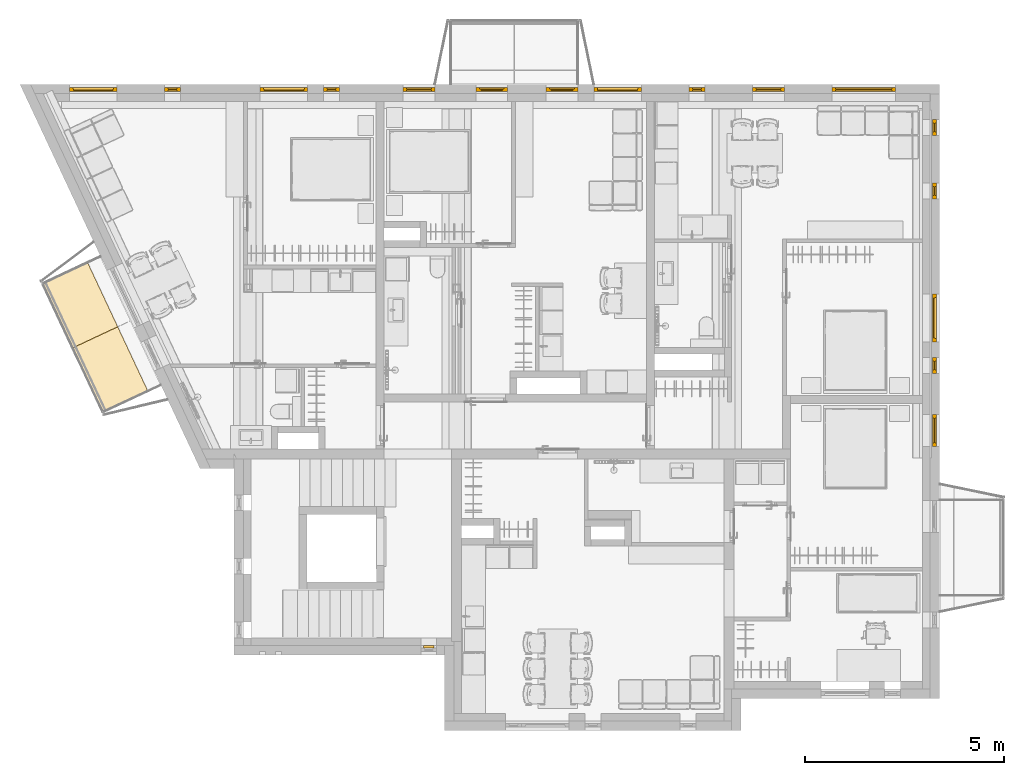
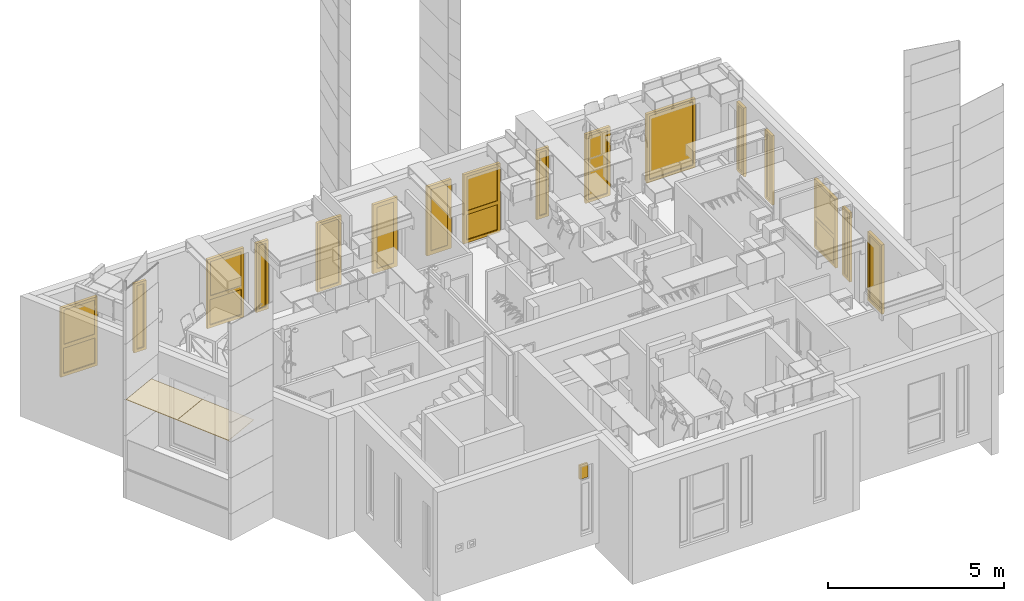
# One storey, part 45 of 125: 17 windows, 2 coverings.
"""IFC2X3 building model written with IfcOpenShell, lengths in millimetres."""

from ifc_helpers import new_model, entity, si_unit, converted_unit, direction, frame, origin, place, context, subcontext, project, spatial, polyline, outline, extrude, faceted_brep, source, transform, mapped, material, material_list, layer, layer_set, layer_usage, type_object, type_shapes, element, save


model = new_model("IFC2X3")

# Units and contexts
model_context = context("Model", 3, precision=0.01, world=origin(), true_north=direction((6.123233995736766e-17, 1.0)))
plan_context = context("Plan", 3, precision=0.01, world=origin(), true_north=direction((6.123233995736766e-17, 1.0)))
body_context = subcontext(model_context, "Body", "Model", "MODEL_VIEW")
ifc_project = project(units=[si_unit("LENGTHUNIT", "METRE", prefix="MILLI"), converted_unit("PLANEANGLEUNIT", "DEGREE", entity("IfcPlaneAngleMeasure", 0.017453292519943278), si_unit("PLANEANGLEUNIT", "RADIAN"), dimensions=[0, 0, 0, 0, 0, 0, 0]), si_unit("AREAUNIT", "SQUARE_METRE")], contexts=[model_context, plan_context])

# Site, building, storey
site_placement = place(None, origin())
site = spatial("IfcSite", under=ifc_project, at=site_placement, Name="Default", CompositionType="ELEMENT")
building_placement = place(site_placement, origin())
building = spatial("IfcBuilding", under=site, at=building_placement, CompositionType="ELEMENT")
storey_placement = place(building_placement, frame((0.0, 0.0, 3125.0)))
storey = spatial("IfcBuildingStorey", under=building, at=storey_placement, Name="2K", CompositionType="ELEMENT", Elevation=3125.0)

# Windows
ifc_material_1 = material(Name="_K. Klaas. Pakett")
ifc_material_2 = material(Name="_K. Avatäited. Raam. PVC. RAL9005")
ifc_material_3 = material(Name="_K. Avatäited. Raam. PVC. Valge")
ifc_material_list_1 = material_list([ifc_material_1, ifc_material_2, ifc_material_3])
window_style_1 = type_object("IfcWindowStyle", Name="HR_Window_Generic_Rectangle_1x2:A-13.1200x2400.P", ConstructionType="NOTDEFINED", OperationType="NOTDEFINED", ParameterTakesPrecedence=False, Sizeable=False, material=ifc_material_list_1)
shared_shape_1 = source(origin(), body_context, "Body", "Brep", [
    faceted_brep([(78.0, -154.0, 2322.0), (1122.0, -154.0, 2322.0), (1122.0, -154.0, 1101.0), (78.0, -154.0, 1101.0), (1122.0, -179.0, 2322.0), (1122.0, -179.0, 1101.0), (78.0, -179.0, 1101.0), (78.0, -179.0, 2322.0)], [[[0, 1, 2, 3]], [[2, 1, 4, 5]], [[3, 2, 5, 6]], [[0, 3, 6, 7]], [[7, 6, 5, 4]], [[1, 0, 7, 4]]]),
    faceted_brep([(1122.0, -154.0, 2322.0), (1122.0, -154.0, 1101.0), (1122.0, -179.0, 1101.0), (1122.0, -179.0, 2322.0), (1142.0, -134.0, 2342.0), (58.0, -134.0, 2342.0), (58.0, -194.0, 2342.0), (1142.0, -194.0, 2342.0), (98.0, -154.0, 2302.0), (98.0, -134.0, 2302.0), (1102.0, -134.0, 2302.0), (1102.0, -154.0, 2302.0), (98.0, -179.0, 2302.0), (98.0, -194.0, 2302.0), (98.0, -194.0, 1121.0), (98.0, -179.0, 1121.0), (1142.0, -134.0, 1081.0), (1142.0, -194.0, 1081.0), (58.0, -194.0, 1081.0), (58.0, -134.0, 1081.0), (1102.0, -194.0, 2302.0), (1102.0, -194.0, 1121.0), (98.0, -134.0, 1121.0), (1102.0, -134.0, 1121.0), (98.0, -154.0, 1121.0), (1102.0, -154.0, 1121.0), (78.0, -154.0, 1101.0), (78.0, -179.0, 1101.0), (78.0, -154.0, 2322.0), (78.0, -179.0, 2322.0), (1102.0, -179.0, 2302.0), (1102.0, -179.0, 1121.0)], [[[0, 1, 2, 3]], [[4, 5, 6, 7]], [[8, 9, 10, 11]], [[12, 13, 14, 15]], [[16, 17, 18, 19]], [[4, 7, 17, 16]], [[13, 20, 21, 14], [7, 6, 18, 17]], [[6, 5, 19, 18]], [[5, 4, 16, 19], [10, 9, 22, 23]], [[9, 8, 24, 22]], [[25, 23, 22, 24]], [[11, 10, 23, 25]], [[1, 26, 27, 2]], [[26, 28, 29, 27]], [[28, 26, 1, 0], [8, 11, 25, 24]], [[28, 0, 3, 29]], [[20, 30, 31, 21]], [[21, 31, 15, 14]], [[29, 3, 2, 27], [30, 12, 15, 31]], [[13, 12, 30, 20]]], outer=[[True], [True], [True], [True], [True], [True], [False, True], [True], [True, False], [True], [True], [True], [True], [True], [True, False], [True], [True], [True], [True, False], [True]]),
    faceted_brep([(88.0, -194.0, 989.0), (1112.0, -194.0, 989.0), (1112.0, -194.0, 108.0), (88.0, -194.0, 108.0), (1142.0, -194.0, 1019.0), (58.0, -194.0, 1019.0), (58.0, -194.0, 78.0), (1142.0, -194.0, 78.0), (88.0, -159.0, 989.0), (88.0, -159.0, 108.0), (1112.0, -159.0, 108.0), (1142.0, -159.0, 1019.0), (1142.0, -159.0, 78.0), (58.0, -159.0, 78.0), (58.0, -159.0, 1019.0), (1112.0, -159.0, 989.0)], [[[0, 1, 2, 3], [4, 5, 6, 7]], [[8, 0, 3, 9]], [[9, 3, 2, 10]], [[11, 12, 13, 14], [15, 8, 9, 10]], [[1, 15, 10, 2]], [[6, 5, 14, 13]], [[7, 6, 13, 12]], [[4, 7, 12, 11]], [[15, 1, 0, 8]], [[5, 4, 11, 14]]], outer=[[False, True], [True], [True], [True, False], [True], [True], [True], [True], [True], [True]]),
    faceted_brep([(1142.0, -159.0, 1019.0), (58.0, -159.0, 1019.0), (58.0, -159.0, 78.0), (1142.0, -159.0, 78.0), (58.0, -134.0, 1019.0), (58.0, -134.0, 78.0), (1142.0, -134.0, 78.0), (1142.0, -134.0, 1019.0)], [[[0, 1, 2, 3]], [[2, 1, 4, 5]], [[3, 2, 5, 6]], [[0, 3, 6, 7]], [[7, 6, 5, 4]], [[1, 0, 7, 4]]]),
    faceted_brep([(58.0, -134.0, 2342.0), (58.0, -134.0, 1081.0), (1142.0, -134.0, 1081.0), (1142.0, -134.0, 2342.0), (88.0, -134.0, 2312.0), (1112.0, -134.0, 2312.0), (1112.0, -134.0, 1111.0), (88.0, -134.0, 1111.0), (1142.0, -134.0, 1019.0), (1142.0, -134.0, 78.0), (1142.0, -194.0, 78.0), (1142.0, -194.0, 1019.0), (58.0, -134.0, 78.0), (58.0, -134.0, 1019.0), (58.0, -194.0, 1019.0), (58.0, -194.0, 78.0), (1112.0, -100.0, 108.0), (88.0, -100.0, 108.0), (88.0, -134.0, 108.0), (1112.0, -134.0, 108.0), (88.0, -100.0, 989.0), (88.0, -134.0, 989.0), (1112.0, -100.0, 989.0), (1112.0, -134.0, 989.0), (1200.0, -194.0, 2400.0), (0.0, -194.0, 2400.0), (0.0, -194.0, 30.0), (1200.0, -194.0, 30.0), (58.0, -194.0, 2342.0), (1142.0, -194.0, 2342.0), (1142.0, -194.0, 1081.0), (58.0, -194.0, 1081.0), (0.0, -100.0, 2400.0), (0.0, -100.0, 30.0), (0.0, -110.0, 30.0), (0.0, -110.0, 0.0), (0.0, -184.0, 0.0), (0.0, -184.0, 30.0), (1200.0, -184.0, 30.0), (1200.0, -100.0, 2400.0), (1200.0, -184.0, 0.0), (1200.0, -110.0, 0.0), (1200.0, -110.0, 30.0), (1200.0, -100.0, 30.0), (88.0, -100.0, 2312.0), (88.0, -100.0, 1111.0), (1112.0, -100.0, 1111.0), (1112.0, -100.0, 2312.0)], [[[0, 1, 2, 3], [4, 5, 6, 7]], [[8, 9, 10, 11]], [[12, 13, 14, 15]], [[9, 12, 15, 10]], [[16, 17, 18, 19]], [[17, 20, 21, 18]], [[22, 16, 19, 23]], [[11, 10, 15, 14], [24, 25, 26, 27], [28, 29, 30, 31]], [[25, 32, 33, 34, 35, 36, 37, 26]], [[37, 38, 27, 26]], [[39, 24, 27, 38, 40, 41, 42, 43]], [[17, 16, 22, 20], [32, 39, 43, 33], [44, 45, 46, 47]], [[42, 34, 33, 43]], [[34, 42, 41, 35]], [[35, 41, 40, 36]], [[38, 37, 36, 40]], [[25, 24, 39, 32]], [[44, 47, 5, 4]], [[47, 46, 6, 5]], [[45, 44, 4, 7]], [[0, 3, 29, 28]], [[3, 2, 30, 29]], [[13, 8, 11, 14]], [[1, 0, 28, 31]], [[2, 1, 31, 30]], [[46, 45, 7, 6]], [[20, 22, 23, 21]], [[9, 8, 13, 12], [19, 18, 21, 23]]], outer=[[True, False], [True], [True], [True], [True], [True], [True], [False, True, False], [True], [True], [True], [False, True, False], [True], [True], [True], [True], [True], [True], [True], [True], [True], [True], [True], [True], [True], [True], [True], [True, False]]),
])
type_shapes(window_style_1, [shared_shape_1])
for number, where in (
    (1, (-4575.0, 15850.0, 0.0)),
    (2, (225.0, 15850.0, 0.0)),
    (3, (8625.0, 15850.0, 0.0)),
):
    element("IfcWindow", number, at=place(storey_placement, frame(where)), inside=storey, type_object=window_style_1, material=ifc_material_list_1, Name="HR_Window_Generic_Rectangle_1x2:A-13.1200x2400.P", ObjectType="HR_Window_Generic_Rectangle_1x2:A-13.1200x2400.P", OverallHeight=2465.0000000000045, OverallWidth=1200.0000000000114, context=body_context, shape_type="MappedRepresentation", body=[
        mapped(shared_shape_1, transform((0.0, 0.0, 0.0), scale=1.0)),
    ])
window_1_placement = place(storey_placement, frame((17350.0, 10550.0, 0.0), z_axis=(0.0, 0.0, 1.0), x_axis=(0.0, -1.0, 0.0)))
element("IfcWindow", 4, at=window_1_placement, inside=storey, type_object=window_style_1, material=ifc_material_list_1, Name="HR_Window_Generic_Rectangle_1x2:A-13.1200x2400.P", ObjectType="HR_Window_Generic_Rectangle_1x2:A-13.1200x2400.P", OverallHeight=2465.0000000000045, OverallWidth=1200.0000000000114, context=body_context, shape_type="MappedRepresentation", body=[
    mapped(shared_shape_1, transform((0.0, 0.0, 0.0), scale=1.0)),
])
ifc_material_list_2 = material_list([ifc_material_3, ifc_material_1, ifc_material_2])
window_style_2 = type_object("IfcWindowStyle", Name="HR_Window_Generic_Rectangle_1x1:A-01.400x2400.ma", ConstructionType="NOTDEFINED", OperationType="NOTDEFINED", ParameterTakesPrecedence=False, Sizeable=False, material=ifc_material_list_2)
shared_shape_2 = source(origin(), body_context, "Body", "Brep", [
    faceted_brep([(88.0, -194.0, 2312.0), (312.0, -194.0, 2312.0), (312.0, -194.0, 108.0), (88.0, -194.0, 108.0), (342.0, -194.0, 2342.0), (58.0, -194.0, 2342.0), (58.0, -194.0, 78.0), (342.0, -194.0, 78.0), (88.0, -159.0, 2312.0), (88.0, -159.0, 108.0), (312.0, -159.0, 108.0), (342.0, -159.0, 2342.0), (342.0, -159.0, 78.0), (58.0, -159.0, 78.0), (58.0, -159.0, 2342.0), (312.0, -159.0, 2312.0)], [[[0, 1, 2, 3], [4, 5, 6, 7]], [[8, 0, 3, 9]], [[9, 3, 2, 10]], [[11, 12, 13, 14], [15, 8, 9, 10]], [[1, 15, 10, 2]], [[6, 5, 14, 13]], [[7, 6, 13, 12]], [[4, 7, 12, 11]], [[15, 1, 0, 8]], [[5, 4, 11, 14]]], outer=[[False, True], [True], [True], [True, False], [True], [True], [True], [True], [True], [True]]),
    faceted_brep([(342.0, -159.0, 2342.0), (58.0, -159.0, 2342.0), (58.0, -159.0, 78.0), (342.0, -159.0, 78.0), (58.0, -134.0, 2342.0), (58.0, -134.0, 78.0), (342.0, -134.0, 78.0), (342.0, -134.0, 2342.0)], [[[0, 1, 2, 3]], [[2, 1, 4, 5]], [[3, 2, 5, 6]], [[0, 3, 6, 7]], [[7, 6, 5, 4]], [[1, 0, 7, 4]]]),
    faceted_brep([(342.0, -134.0, 78.0), (58.0, -134.0, 78.0), (58.0, -194.0, 78.0), (342.0, -194.0, 78.0), (58.0, -134.0, 2342.0), (58.0, -194.0, 2342.0), (342.0, -134.0, 2342.0), (342.0, -194.0, 2342.0), (88.0, -100.0, 108.0), (88.0, -100.0, 2312.0), (88.0, -134.0, 2312.0), (88.0, -134.0, 108.0), (312.0, -100.0, 108.0), (312.0, -134.0, 108.0), (312.0, -100.0, 2312.0), (312.0, -134.0, 2312.0), (0.0, -100.0, 2400.0), (400.0, -100.0, 2400.0), (400.0, -100.0, 30.0), (0.0, -100.0, 30.0), (400.0, -194.0, 2400.0), (0.0, -194.0, 2400.0), (0.0, -194.0, 30.0), (400.0, -194.0, 30.0), (0.0, -110.0, 30.0), (0.0, -110.0, 0.0), (0.0, -184.0, 0.0), (0.0, -184.0, 30.0), (400.0, -184.0, 30.0), (400.0, -184.0, 0.0), (400.0, -110.0, 0.0), (400.0, -110.0, 30.0)], [[[0, 1, 2, 3]], [[1, 4, 5, 2]], [[6, 0, 3, 7]], [[8, 9, 10, 11]], [[12, 8, 11, 13]], [[14, 12, 13, 15]], [[16, 17, 18, 19], [9, 8, 12, 14]], [[20, 21, 22, 23], [7, 3, 2, 5]], [[21, 16, 19, 24, 25, 26, 27, 22]], [[27, 28, 23, 22]], [[17, 20, 23, 28, 29, 30, 31, 18]], [[31, 24, 19, 18]], [[24, 31, 30, 25]], [[25, 30, 29, 26]], [[28, 27, 26, 29]], [[4, 6, 7, 5]], [[9, 14, 15, 10]], [[21, 20, 17, 16]], [[10, 15, 13, 11], [0, 6, 4, 1]]], outer=[[True], [True], [True], [True], [True], [True], [True, False], [True, False], [True], [True], [True], [True], [True], [True], [True], [True], [True], [True], [False, True]]),
])
type_shapes(window_style_2, [shared_shape_2])
for number, where in (
    (5, (-2175.0, 15850.0, 0.0)),
    (6, (1825.0, 15850.0, 0.0)),
    (7, (11025.0, 15850.0, 0.0)),
):
    element("IfcWindow", number, at=place(storey_placement, frame(where)), inside=storey, type_object=window_style_2, material=ifc_material_list_2, Name="HR_Window_Generic_Rectangle_1x1:A-01.400x2400.ma", ObjectType="HR_Window_Generic_Rectangle_1x1:A-01.400x2400.ma", OverallHeight=2465.0000000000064, OverallWidth=400.0000000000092, context=body_context, shape_type="MappedRepresentation", body=[
        mapped(shared_shape_2, transform((0.0, 0.0, 0.0), scale=1.0)),
    ])
for number, where, z_axis, x_axis in (
    (8, (17350.0, 14950.0, 0.0), (0.0, 0.0, 1.0), (0.0, -1.0, 0.0)),
    (9, (17350.0, 13350.0, 0.0), (0.0, 0.0, 1.0), (0.0, -1.0, 0.0)),
    (10, (17350.0, 8950.0, 0.0), (0.0, 0.0, 1.0), (0.0, -1.0, 0.0)),
):
    element("IfcWindow", number, at=place(storey_placement, frame(where, z_axis=z_axis, x_axis=x_axis)), inside=storey, type_object=window_style_2, material=ifc_material_list_2, Name="HR_Window_Generic_Rectangle_1x1:A-01.400x2400.ma", ObjectType="HR_Window_Generic_Rectangle_1x1:A-01.400x2400.ma", OverallHeight=2465.0000000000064, OverallWidth=400.0000000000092, context=body_context, shape_type="MappedRepresentation", body=[
        mapped(shared_shape_2, transform((0.0, 0.0, 0.0), scale=1.0)),
    ])
window_style_3 = type_object("IfcWindowStyle", Name="HR_Window_Generic_Rectangle_1x1:A-02. 800x2400. ma", ConstructionType="NOTDEFINED", OperationType="NOTDEFINED", ParameterTakesPrecedence=False, Sizeable=False, material=ifc_material_list_2)
shared_shape_3 = source(origin(), body_context, "Body", "Brep", [
    faceted_brep([(88.0, -194.0, 2312.0), (712.0, -194.0, 2312.0), (712.0, -194.0, 108.0), (88.0, -194.0, 108.0), (742.0, -194.0, 2342.0), (58.0, -194.0, 2342.0), (58.0, -194.0, 78.0), (742.0, -194.0, 78.0), (88.0, -159.0, 2312.0), (88.0, -159.0, 108.0), (712.0, -159.0, 108.0), (742.0, -159.0, 2342.0), (742.0, -159.0, 78.0), (58.0, -159.0, 78.0), (58.0, -159.0, 2342.0), (712.0, -159.0, 2312.0)], [[[0, 1, 2, 3], [4, 5, 6, 7]], [[8, 0, 3, 9]], [[9, 3, 2, 10]], [[11, 12, 13, 14], [15, 8, 9, 10]], [[1, 15, 10, 2]], [[6, 5, 14, 13]], [[7, 6, 13, 12]], [[4, 7, 12, 11]], [[15, 1, 0, 8]], [[5, 4, 11, 14]]], outer=[[False, True], [True], [True], [True, False], [True], [True], [True], [True], [True], [True]]),
    faceted_brep([(742.0, -159.0, 2342.0), (58.0, -159.0, 2342.0), (58.0, -159.0, 78.0), (742.0, -159.0, 78.0), (58.0, -134.0, 2342.0), (58.0, -134.0, 78.0), (742.0, -134.0, 78.0), (742.0, -134.0, 2342.0)], [[[0, 1, 2, 3]], [[2, 1, 4, 5]], [[3, 2, 5, 6]], [[0, 3, 6, 7]], [[7, 6, 5, 4]], [[1, 0, 7, 4]]]),
    faceted_brep([(742.0, -134.0, 78.0), (58.0, -134.0, 78.0), (58.0, -194.0, 78.0), (742.0, -194.0, 78.0), (58.0, -134.0, 2342.0), (58.0, -194.0, 2342.0), (742.0, -134.0, 2342.0), (742.0, -194.0, 2342.0), (88.0, -100.0, 108.0), (88.0, -100.0, 2312.0), (88.0, -134.0, 2312.0), (88.0, -134.0, 108.0), (712.0, -100.0, 108.0), (712.0, -134.0, 108.0), (712.0, -100.0, 2312.0), (712.0, -134.0, 2312.0), (0.0, -100.0, 2400.0), (800.0, -100.0, 2400.0), (800.0, -100.0, 30.0), (0.0, -100.0, 30.0), (800.0, -194.0, 2400.0), (0.0, -194.0, 2400.0), (0.0, -194.0, 30.0), (800.0, -194.0, 30.0), (0.0, -110.0, 30.0), (0.0, -110.0, 0.0), (0.0, -184.0, 0.0), (0.0, -184.0, 30.0), (800.0, -184.0, 30.0), (800.0, -184.0, 0.0), (800.0, -110.0, 0.0), (800.0, -110.0, 30.0)], [[[0, 1, 2, 3]], [[1, 4, 5, 2]], [[6, 0, 3, 7]], [[8, 9, 10, 11]], [[12, 8, 11, 13]], [[14, 12, 13, 15]], [[16, 17, 18, 19], [9, 8, 12, 14]], [[20, 21, 22, 23], [7, 3, 2, 5]], [[21, 16, 19, 24, 25, 26, 27, 22]], [[27, 28, 23, 22]], [[17, 20, 23, 28, 29, 30, 31, 18]], [[31, 24, 19, 18]], [[24, 31, 30, 25]], [[25, 30, 29, 26]], [[28, 27, 26, 29]], [[4, 6, 7, 5]], [[9, 14, 15, 10]], [[21, 20, 17, 16]], [[10, 15, 13, 11], [0, 6, 4, 1]]], outer=[[True], [True], [True], [True], [True], [True], [True, False], [True, False], [True], [True], [True], [True], [True], [True], [True], [True], [True], [True], [False, True]]),
])
type_shapes(window_style_3, [shared_shape_3])
for number, where in (
    (11, (3825.0, 15850.0, 0.0)),
    (12, (12625.0, 15850.0, 0.0)),
):
    element("IfcWindow", number, at=place(storey_placement, frame(where)), inside=storey, type_object=window_style_3, material=ifc_material_list_2, Name="HR_Window_Generic_Rectangle_1x1:A-02. 800x2400. ma", ObjectType="HR_Window_Generic_Rectangle_1x1:A-02. 800x2400. ma", OverallHeight=2465.0000000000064, OverallWidth=800.000000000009, context=body_context, shape_type="MappedRepresentation", body=[
        mapped(shared_shape_3, transform((0.0, 0.0, 0.0), scale=1.0)),
    ])
window_2_placement = place(storey_placement, frame((17350.0, 7520.0, 0.0), z_axis=(0.0, 0.0, 1.0), x_axis=(0.0, -1.0, 0.0)))
element("IfcWindow", 13, at=window_2_placement, inside=storey, type_object=window_style_3, material=ifc_material_list_2, Name="HR_Window_Generic_Rectangle_1x1:A-02. 800x2400. ma", ObjectType="HR_Window_Generic_Rectangle_1x1:A-02. 800x2400. ma", OverallHeight=2465.0000000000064, OverallWidth=800.000000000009, context=body_context, shape_type="MappedRepresentation", body=[
    mapped(shared_shape_3, transform((0.0, 0.0, 0.0), scale=1.0)),
])
ifc_material_list_3 = material_list([ifc_material_1, ifc_material_2])
window_style_4 = type_object("IfcWindowStyle", Name="HR_Window_Generic_Rectangle_1x1:A-10.800x2400.P", ConstructionType="NOTDEFINED", OperationType="NOTDEFINED", ParameterTakesPrecedence=False, Sizeable=False, material=ifc_material_list_3)
shared_shape_4 = source(origin(), body_context, "Body", "Brep", [
    faceted_brep([(108.0, -154.0, 2292.0), (692.0, -154.0, 2292.0), (692.0, -154.0, 128.0), (108.0, -154.0, 128.0), (692.0, -179.0, 2292.0), (692.0, -179.0, 128.0), (108.0, -179.0, 128.0), (108.0, -179.0, 2292.0)], [[[0, 1, 2, 3]], [[2, 1, 4, 5]], [[3, 2, 5, 6]], [[0, 3, 6, 7]], [[7, 6, 5, 4]], [[1, 0, 7, 4]]]),
    faceted_brep([(692.0, -154.0, 2292.0), (692.0, -154.0, 128.0), (692.0, -179.0, 128.0), (692.0, -179.0, 2292.0), (742.0, -134.0, 2342.0), (58.0, -134.0, 2342.0), (58.0, -194.0, 2342.0), (742.0, -194.0, 2342.0), (128.0, -154.0, 2272.0), (128.0, -134.0, 2272.0), (672.0, -134.0, 2272.0), (672.0, -154.0, 2272.0), (128.0, -179.0, 2272.0), (128.0, -194.0, 2272.0), (128.0, -194.0, 148.0), (128.0, -179.0, 148.0), (742.0, -134.0, 78.0), (742.0, -194.0, 78.0), (58.0, -194.0, 78.0), (58.0, -134.0, 78.0), (672.0, -194.0, 2272.0), (672.0, -194.0, 148.0), (128.0, -134.0, 148.0), (672.0, -134.0, 148.0), (128.0, -154.0, 148.0), (672.0, -154.0, 148.0), (108.0, -154.0, 128.0), (108.0, -179.0, 128.0), (108.0, -154.0, 2292.0), (108.0, -179.0, 2292.0), (672.0, -179.0, 2272.0), (672.0, -179.0, 148.0)], [[[0, 1, 2, 3]], [[4, 5, 6, 7]], [[8, 9, 10, 11]], [[12, 13, 14, 15]], [[16, 17, 18, 19]], [[4, 7, 17, 16]], [[13, 20, 21, 14], [7, 6, 18, 17]], [[6, 5, 19, 18]], [[5, 4, 16, 19], [10, 9, 22, 23]], [[9, 8, 24, 22]], [[25, 23, 22, 24]], [[11, 10, 23, 25]], [[1, 26, 27, 2]], [[26, 28, 29, 27]], [[28, 26, 1, 0], [8, 11, 25, 24]], [[28, 0, 3, 29]], [[20, 30, 31, 21]], [[21, 31, 15, 14]], [[29, 3, 2, 27], [30, 12, 15, 31]], [[13, 12, 30, 20]]], outer=[[True], [True], [True], [True], [True], [True], [False, True], [True], [True, False], [True], [True], [True], [True], [True], [True, False], [True], [True], [True], [True, False], [True]]),
    faceted_brep([(742.0, -134.0, 78.0), (58.0, -134.0, 78.0), (58.0, -194.0, 78.0), (742.0, -194.0, 78.0), (58.0, -134.0, 2342.0), (58.0, -194.0, 2342.0), (742.0, -134.0, 2342.0), (742.0, -194.0, 2342.0), (88.0, -100.0, 108.0), (88.0, -100.0, 2312.0), (88.0, -134.0, 2312.0), (88.0, -134.0, 108.0), (712.0, -100.0, 108.0), (712.0, -134.0, 108.0), (712.0, -100.0, 2312.0), (712.0, -134.0, 2312.0), (0.0, -100.0, 2400.0), (800.0, -100.0, 2400.0), (800.0, -100.0, 30.0), (0.0, -100.0, 30.0), (800.0, -194.0, 2400.0), (0.0, -194.0, 2400.0), (0.0, -194.0, 30.0), (800.0, -194.0, 30.0), (0.0, -110.0, 30.0), (0.0, -110.0, 0.0), (0.0, -184.0, 0.0), (0.0, -184.0, 30.0), (800.0, -184.0, 30.0), (800.0, -184.0, 0.0), (800.0, -110.0, 0.0), (800.0, -110.0, 30.0)], [[[0, 1, 2, 3]], [[1, 4, 5, 2]], [[6, 0, 3, 7]], [[8, 9, 10, 11]], [[12, 8, 11, 13]], [[14, 12, 13, 15]], [[16, 17, 18, 19], [9, 8, 12, 14]], [[20, 21, 22, 23], [7, 3, 2, 5]], [[21, 16, 19, 24, 25, 26, 27, 22]], [[27, 28, 23, 22]], [[17, 20, 23, 28, 29, 30, 31, 18]], [[31, 24, 19, 18]], [[24, 31, 30, 25]], [[25, 30, 29, 26]], [[28, 27, 26, 29]], [[4, 6, 7, 5]], [[9, 14, 15, 10]], [[21, 20, 17, 16]], [[10, 15, 13, 11], [0, 6, 4, 1]]], outer=[[True], [True], [True], [True], [True], [True], [True, False], [True, False], [True], [True], [True], [True], [True], [True], [True], [True], [True], [True], [False, True]]),
])
type_shapes(window_style_4, [shared_shape_4])
window_3_placement = place(storey_placement, frame((5655.0, 15850.0, 0.0)))
element("IfcWindow", 14, at=window_3_placement, inside=storey, type_object=window_style_4, material=ifc_material_list_3, Name="HR_Window_Generic_Rectangle_1x1:A-10.800x2400.P", ObjectType="HR_Window_Generic_Rectangle_1x1:A-10.800x2400.P", OverallHeight=2465.0000000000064, OverallWidth=800.000000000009, context=body_context, shape_type="MappedRepresentation", body=[
    mapped(shared_shape_4, transform((0.0, 0.0, 0.0), scale=1.0)),
])
window_style_5 = type_object("IfcWindowStyle", Name="HR_Window_Generic_Rectangle_1x1:A-09.800x2400.V", ConstructionType="NOTDEFINED", OperationType="NOTDEFINED", ParameterTakesPrecedence=False, Sizeable=False, material=ifc_material_list_3)
shared_shape_5 = source(origin(), body_context, "Body", "Brep", [
    faceted_brep([(108.0, -154.0, 2292.0), (692.0, -154.0, 2292.0), (692.0, -154.0, 128.0), (108.0, -154.0, 128.0), (692.0, -179.0, 2292.0), (692.0, -179.0, 128.0), (108.0, -179.0, 128.0), (108.0, -179.0, 2292.0)], [[[0, 1, 2, 3]], [[2, 1, 4, 5]], [[3, 2, 5, 6]], [[0, 3, 6, 7]], [[7, 6, 5, 4]], [[1, 0, 7, 4]]]),
    faceted_brep([(742.0, -134.0, 78.0), (742.0, -194.0, 78.0), (58.0, -194.0, 78.0), (58.0, -134.0, 78.0), (742.0, -134.0, 2342.0), (742.0, -194.0, 2342.0), (128.0, -194.0, 2272.0), (672.0, -194.0, 2272.0), (672.0, -194.0, 148.0), (128.0, -194.0, 148.0), (58.0, -194.0, 2342.0), (58.0, -134.0, 2342.0), (672.0, -134.0, 2272.0), (128.0, -134.0, 2272.0), (128.0, -134.0, 148.0), (672.0, -134.0, 148.0), (128.0, -154.0, 2272.0), (128.0, -154.0, 148.0), (672.0, -154.0, 148.0), (672.0, -154.0, 2272.0), (692.0, -154.0, 2292.0), (692.0, -154.0, 128.0), (692.0, -179.0, 128.0), (692.0, -179.0, 2292.0), (108.0, -154.0, 128.0), (108.0, -179.0, 128.0), (108.0, -154.0, 2292.0), (108.0, -179.0, 2292.0), (672.0, -179.0, 2272.0), (672.0, -179.0, 148.0), (128.0, -179.0, 148.0), (128.0, -179.0, 2272.0)], [[[0, 1, 2, 3]], [[4, 5, 1, 0]], [[6, 7, 8, 9], [5, 10, 2, 1]], [[10, 11, 3, 2]], [[12, 13, 14, 15], [11, 4, 0, 3]], [[13, 16, 17, 14]], [[18, 15, 14, 17]], [[19, 12, 15, 18]], [[20, 21, 22, 23]], [[21, 24, 25, 22]], [[24, 26, 27, 25]], [[26, 24, 21, 20], [16, 19, 18, 17]], [[4, 11, 10, 5]], [[16, 13, 12, 19]], [[26, 20, 23, 27]], [[7, 28, 29, 8]], [[8, 29, 30, 9]], [[31, 6, 9, 30]], [[27, 23, 22, 25], [28, 31, 30, 29]], [[6, 31, 28, 7]]], outer=[[True], [True], [False, True], [True], [False, True], [True], [True], [True], [True], [True], [True], [True, False], [True], [True], [True], [True], [True], [True], [True, False], [True]]),
    faceted_brep([(742.0, -134.0, 78.0), (58.0, -134.0, 78.0), (58.0, -194.0, 78.0), (742.0, -194.0, 78.0), (58.0, -134.0, 2342.0), (58.0, -194.0, 2342.0), (742.0, -134.0, 2342.0), (742.0, -194.0, 2342.0), (88.0, -100.0, 108.0), (88.0, -100.0, 2312.0), (88.0, -134.0, 2312.0), (88.0, -134.0, 108.0), (712.0, -100.0, 108.0), (712.0, -134.0, 108.0), (712.0, -100.0, 2312.0), (712.0, -134.0, 2312.0), (0.0, -100.0, 2400.0), (800.0, -100.0, 2400.0), (800.0, -100.0, 30.0), (0.0, -100.0, 30.0), (800.0, -194.0, 2400.0), (0.0, -194.0, 2400.0), (0.0, -194.0, 30.0), (800.0, -194.0, 30.0), (0.0, -110.0, 30.0), (0.0, -110.0, 0.0), (0.0, -184.0, 0.0), (0.0, -184.0, 30.0), (800.0, -184.0, 30.0), (800.0, -184.0, 0.0), (800.0, -110.0, 0.0), (800.0, -110.0, 30.0)], [[[0, 1, 2, 3]], [[1, 4, 5, 2]], [[6, 0, 3, 7]], [[8, 9, 10, 11]], [[12, 8, 11, 13]], [[14, 12, 13, 15]], [[16, 17, 18, 19], [9, 8, 12, 14]], [[20, 21, 22, 23], [7, 3, 2, 5]], [[21, 16, 19, 24, 25, 26, 27, 22]], [[27, 28, 23, 22]], [[17, 20, 23, 28, 29, 30, 31, 18]], [[31, 24, 19, 18]], [[24, 31, 30, 25]], [[25, 30, 29, 26]], [[28, 27, 26, 29]], [[4, 6, 7, 5]], [[9, 14, 15, 10]], [[21, 20, 17, 16]], [[10, 15, 13, 11], [0, 6, 4, 1]]], outer=[[True], [True], [True], [True], [True], [True], [True, False], [True, False], [True], [True], [True], [True], [True], [True], [True], [True], [True], [True], [False, True]]),
])
type_shapes(window_style_5, [shared_shape_5])
window_4_placement = place(storey_placement, frame((7425.0, 15850.0, 0.0)))
element("IfcWindow", 15, at=window_4_placement, inside=storey, type_object=window_style_5, material=ifc_material_list_3, Name="HR_Window_Generic_Rectangle_1x1:A-09.800x2400.V", ObjectType="HR_Window_Generic_Rectangle_1x1:A-09.800x2400.V", OverallHeight=2465.0000000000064, OverallWidth=800.000000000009, context=body_context, shape_type="MappedRepresentation", body=[
    mapped(shared_shape_5, transform((0.0, 0.0, 0.0), scale=1.0)),
])
window_style_6 = type_object("IfcWindowStyle", Name="HR_Window_Generic_Rectangle_1x1:A-04.1600x2400.ma", ConstructionType="NOTDEFINED", OperationType="NOTDEFINED", ParameterTakesPrecedence=False, Sizeable=False, material=ifc_material_list_2)
shared_shape_6 = source(origin(), body_context, "Body", "Brep", [
    faceted_brep([(88.0, -194.0, 2312.0), (1512.0, -194.0, 2312.0), (1512.0, -194.0, 108.0), (88.0, -194.0, 108.0), (1542.0, -194.0, 2342.0), (58.0, -194.0, 2342.0), (58.0, -194.0, 78.0), (1542.0, -194.0, 78.0), (88.0, -159.0, 2312.0), (88.0, -159.0, 108.0), (1512.0, -159.0, 108.0), (1542.0, -159.0, 2342.0), (1542.0, -159.0, 78.0), (58.0, -159.0, 78.0), (58.0, -159.0, 2342.0), (1512.0, -159.0, 2312.0)], [[[0, 1, 2, 3], [4, 5, 6, 7]], [[8, 0, 3, 9]], [[9, 3, 2, 10]], [[11, 12, 13, 14], [15, 8, 9, 10]], [[1, 15, 10, 2]], [[6, 5, 14, 13]], [[7, 6, 13, 12]], [[4, 7, 12, 11]], [[15, 1, 0, 8]], [[5, 4, 11, 14]]], outer=[[False, True], [True], [True], [True, False], [True], [True], [True], [True], [True], [True]]),
    faceted_brep([(1542.0, -159.0, 2342.0), (58.0, -159.0, 2342.0), (58.0, -159.0, 78.0), (1542.0, -159.0, 78.0), (58.0, -134.0, 2342.0), (58.0, -134.0, 78.0), (1542.0, -134.0, 78.0), (1542.0, -134.0, 2342.0)], [[[0, 1, 2, 3]], [[2, 1, 4, 5]], [[3, 2, 5, 6]], [[0, 3, 6, 7]], [[7, 6, 5, 4]], [[1, 0, 7, 4]]]),
    faceted_brep([(1542.0, -134.0, 78.0), (58.0, -134.0, 78.0), (58.0, -194.0, 78.0), (1542.0, -194.0, 78.0), (58.0, -134.0, 2342.0), (58.0, -194.0, 2342.0), (1542.0, -134.0, 2342.0), (1542.0, -194.0, 2342.0), (88.0, -100.0, 108.0), (88.0, -100.0, 2312.0), (88.0, -134.0, 2312.0), (88.0, -134.0, 108.0), (1512.0, -100.0, 108.0), (1512.0, -134.0, 108.0), (1512.0, -100.0, 2312.0), (1512.0, -134.0, 2312.0), (0.0, -100.0, 2400.0), (1600.0, -100.0, 2400.0), (1600.0, -100.0, 30.0), (0.0, -100.0, 30.0), (1600.0, -194.0, 2400.0), (0.0, -194.0, 2400.0), (0.0, -194.0, 30.0), (1600.0, -194.0, 30.0), (0.0, -110.0, 30.0), (0.0, -110.0, 0.0), (0.0, -184.0, 0.0), (0.0, -184.0, 30.0), (1600.0, -184.0, 30.0), (1600.0, -184.0, 0.0), (1600.0, -110.0, 0.0), (1600.0, -110.0, 30.0)], [[[0, 1, 2, 3]], [[1, 4, 5, 2]], [[6, 0, 3, 7]], [[8, 9, 10, 11]], [[12, 8, 11, 13]], [[14, 12, 13, 15]], [[16, 17, 18, 19], [9, 8, 12, 14]], [[20, 21, 22, 23], [7, 3, 2, 5]], [[21, 16, 19, 24, 25, 26, 27, 22]], [[27, 28, 23, 22]], [[17, 20, 23, 28, 29, 30, 31, 18]], [[31, 24, 19, 18]], [[24, 31, 30, 25]], [[25, 30, 29, 26]], [[28, 27, 26, 29]], [[4, 6, 7, 5]], [[9, 14, 15, 10]], [[21, 20, 17, 16]], [[10, 15, 13, 11], [0, 6, 4, 1]]], outer=[[True], [True], [True], [True], [True], [True], [True, False], [True, False], [True], [True], [True], [True], [True], [True], [True], [True], [True], [True], [False, True]]),
])
type_shapes(window_style_6, [shared_shape_6])
window_5_placement = place(storey_placement, frame((14625.0, 15850.0, 0.0)))
element("IfcWindow", 16, at=window_5_placement, inside=storey, type_object=window_style_6, material=ifc_material_list_2, Name="HR_Window_Generic_Rectangle_1x1:A-04.1600x2400.ma", ObjectType="HR_Window_Generic_Rectangle_1x1:A-04.1600x2400.ma", OverallHeight=2465.0000000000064, OverallWidth=1600.0000000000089, context=body_context, shape_type="MappedRepresentation", body=[
    mapped(shared_shape_6, transform((0.0, 0.0, 0.0), scale=1.0)),
])
window_style_7 = type_object("IfcWindowStyle", Name="Infill_Glazing_W-ALU_Rectangle_Triple:Fixed. Tumm", ConstructionType="NOTDEFINED", OperationType="NOTDEFINED", ParameterTakesPrecedence=False, Sizeable=False, material=ifc_material_2)
shared_shape_7 = source(origin(), body_context, "Body", "Brep", [
    faceted_brep([(-130.50000000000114, -90.0, 469.49999999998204), (-130.50000000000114, -90.0, -18.499999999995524), (130.4999999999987, -90.0, -18.499999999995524), (130.4999999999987, -90.0, 469.49999999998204), (-130.50000000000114, -50.0, 469.49999999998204), (130.4999999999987, -50.0, 469.49999999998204), (130.4999999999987, -50.0, -18.499999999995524), (-130.50000000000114, -50.0, -18.499999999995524)], [[[0, 1, 2, 3]], [[4, 5, 6, 7]], [[1, 0, 4, 7]], [[2, 1, 7, 6]], [[3, 2, 6, 5]], [[0, 3, 5, 4]]]),
    faceted_brep([(130.5000000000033, -90.0, -18.499999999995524), (130.5000000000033, -112.0, -18.499999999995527), (-130.49999999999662, -112.0, -18.499999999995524), (-130.49999999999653, -90.0, -18.49999999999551), (-130.49999999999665, -112.0, 469.49999999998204), (-130.4999999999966, -90.0, 469.4999999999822), (130.50000000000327, -112.0, 469.49999999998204), (-117.89488223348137, -112.0, 456.89488223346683), (117.894882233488, -112.0, 456.89488223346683), (117.89488223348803, -112.0, -5.894882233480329), (-117.89488223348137, -112.0, -5.894882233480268), (-112.0, -90.0, 0.0), (112.0, -90.0, 0.0), (112.0, -90.0, 451.0), (-112.0, -90.0, 451.0), (130.5000000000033, -90.0, 469.49999999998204)], [[[0, 1, 2, 3]], [[3, 2, 4, 5]], [[2, 1, 6, 4], [7, 8, 9, 10]], [[11, 12, 13, 14], [5, 15, 0, 3]], [[9, 12, 11, 10]], [[10, 11, 14, 7]], [[15, 6, 1, 0]], [[8, 13, 12, 9]], [[5, 4, 6, 15]], [[7, 14, 13, 8]]], outer=[[True], [True], [True, False], [False, True], [True], [True], [True], [True], [True], [True]]),
])
type_shapes(window_style_7, [shared_shape_7])
window_6_placement = place(storey_placement, frame((4470.0, 1597.0, 1861.0), z_axis=(0.0, 0.0, 1.0), x_axis=(-1.0, 0.0, 0.0)))
element("IfcWindow", 17, at=window_6_placement, inside=storey, type_object=window_style_7, material=ifc_material_2, Name="Infill_Glazing_W-ALU_Rectangle_Triple:Fixed. Tumm", ObjectType="Infill_Glazing_W-ALU_Rectangle_Triple:Fixed. Tumm", OverallHeight=111.99999999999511, OverallWidth=261.00000000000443, context=body_context, shape_type="MappedRepresentation", body=[
    mapped(shared_shape_7, transform((0.0, 0.0, 0.0), scale=1.0)),
])

# Coverings
ifc_material_4 = material(Name="_K. Õhk. Roov. Fassaadikatte alusroov. Horisontaalne. 25 mm")
ifc_layer_1 = layer(ifc_material_4, 16.0)
ifc_material_5 = material(Name="_K. Välisviimistlus. Alumiinium-komposiitplaat")
ifc_layer_2 = layer(ifc_material_5, 4.0)
ifc_layer_set = layer_set([ifc_layer_1, ifc_layer_2], Name="Compound Ceiling:Valge rõdud")
ifc_layer_usage_1 = layer_usage(ifc_layer_set, "AXIS3", "NEGATIVE", 20.0)
covering_type = type_object("IfcCoveringType", Name="Compound Ceiling:Valge rõdud", PredefinedType="CEILING")
covering_1_placement = place(storey_placement, frame((-5243.6188842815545, 9200.071339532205, 2407.5000000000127)))
element("IfcCovering", 18, at=covering_1_placement, inside=storey, type_object=covering_type, material=ifc_layer_usage_1, Name="Compound Ceiling:Valge rõdud", ObjectType="Compound Ceiling:Valge rõdud", PredefinedType="CEILING", context=body_context, shape_type="SweptSolid", body=[
    extrude(outline(polyline([(-625.0, -885.2277105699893), (625.0, -885.2277105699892), (625.0, 885.2246561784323), (-625.0, 885.2307649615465), (-625.0, -885.2277105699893)])), frame((941.6350701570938, 1066.808978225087, 0.0), z_axis=(0.0, 0.0, 1.0), x_axis=(0.9054578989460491, 0.42443608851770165, 0.0)), (0.0, 0.0, 1.0), 19.999999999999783),
])
ifc_layer_usage_2 = layer_usage(ifc_layer_set, "AXIS3", "NEGATIVE", 20.0)
covering_2_placement = place(storey_placement, frame((-4490.0487269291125, 7592.465224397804, 2407.5000000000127)))
element("IfcCovering", 19, at=covering_2_placement, inside=storey, type_object=covering_type, material=ifc_layer_usage_2, Name="Compound Ceiling:Valge rõdud", ObjectType="Compound Ceiling:Valge rõdud", PredefinedType="CEILING", context=body_context, shape_type="SweptSolid", body=[
    extrude(outline(polyline([(-885.2277105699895, -625.0), (885.2307649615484, -625.0), (885.2246561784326, 625.0), (-885.2277105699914, 625.0), (-885.2277105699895, -625.0)])), frame((941.6337737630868, 1066.8117438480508, 0.0), z_axis=(0.0, 0.0, 1.0), x_axis=(0.42443608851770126, -0.9054578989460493, 0.0)), (0.0, 0.0, 1.0), 19.999999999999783),
])

save(model, "model.ifc")
